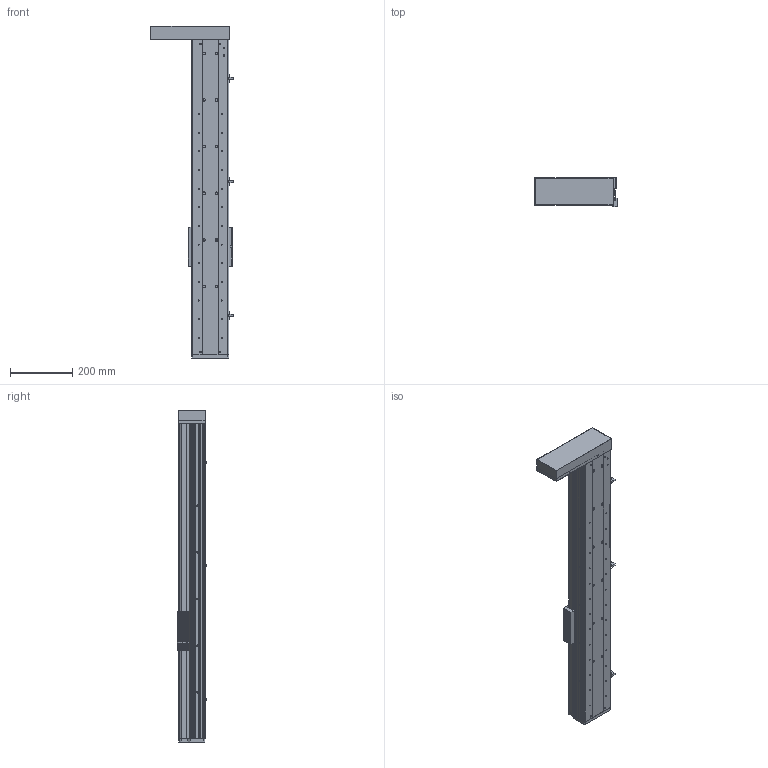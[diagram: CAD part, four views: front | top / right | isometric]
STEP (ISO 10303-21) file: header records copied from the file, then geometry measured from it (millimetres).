
FILE_DESCRIPTION (( 'STEP AP214' ), '1' );
FILE_NAME ('CF120B-C-800-FWL.STEP', '2020-01-15T08:53:33', ( '微软用户' ), ( '微软中国' ), 'SwSTEP 2.0', 'SolidWorks 2016', '' );
FILE_SCHEMA (( 'AUTOMOTIVE_DESIGN' ));
Length unit declared in the file: millimetre
Products named in the file (14): CF120B臏倰第-800; CF120B-C-800-FWL; 嫖萇羲壽; 75-86-95癹弇羲壽覜茼え; 120B酘殏殏萇儂啣; CF120-2嘐隅釱 - 萵掛; 殏俔肮祭謫欶; CF120-2耜啣; CF120-2盓厥釱; CF120B裔啣-800; CF120-2-2賑雄啣; CF120-2-1賑雄輸; EGR15絳寢-800; EGH-15-CABZnew
Assembly tree (19 placements, depth 2):
  CF120B-C-800-FWL
    CF120B臏倰第-800
    EGH-15-CABZnew  x4
    EGR15絳寢-800  x2
    CF120-2-1賑雄輸
    CF120-2-2賑雄啣
    CF120B裔啣-800
    CF120-2盓厥釱
    CF120-2耜啣
    殏俔肮祭謫欶
    CF120-2嘐隅釱 - 萵掛
    120B酘殏殏萇儂啣
    75-86-95癹弇羲壽覜茼え
    嫖萇羲壽  x3
Bounding box: 264.6 x 94.1 x 1068 mm (x, y, z)
Volume: 3881291.4 mm3; surface area: 1613045.4 mm2
Topology: 15 solids, 67 shells, 7335 faces, 27825 edges, 19136 vertices
Faces by surface type: plane 3546, bspline 2348, cylinder 1069, cone 148, torus 128, sphere 96
Entity records: 133137 total; most frequent: CARTESIAN_POINT 42665, ORIENTED_EDGE 15606, DIRECTION 12426, EDGE_CURVE 8927, VERTEX_POINT 6109, LINE 5154, VECTOR 5154, AXIS2_PLACEMENT_3D 3636
